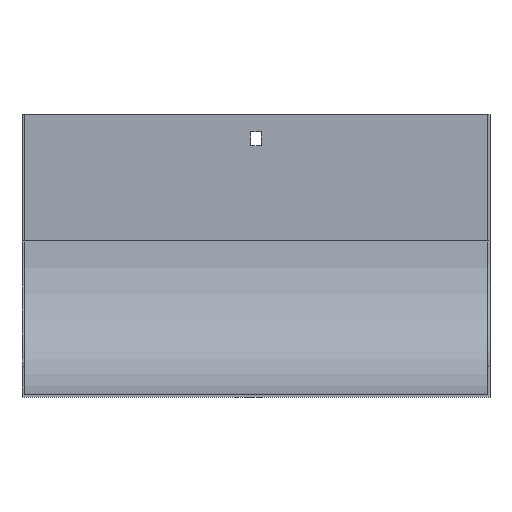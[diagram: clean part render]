
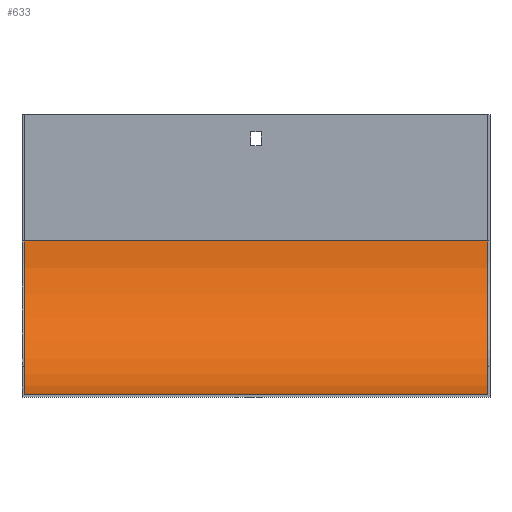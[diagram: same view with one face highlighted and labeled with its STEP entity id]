
A CAD part, front view. The second image highlights one B-rep face of the part: STEP entity #633.
In plain terms, the highlighted cylindrical face has radius 100 mm (diameter 200 mm), a partial arc.
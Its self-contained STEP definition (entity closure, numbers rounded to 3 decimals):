
#7 = CIRCLE ( 'NONE', #369, 100. ) ;
#17 = FACE_OUTER_BOUND ( 'NONE', #284, .T. ) ;
#42 = EDGE_CURVE ( 'NONE', #421, #314, #378, .T. ) ;
#43 = DIRECTION ( 'NONE',  ( 1., 0., 0. ) ) ;
#64 = DIRECTION ( 'NONE',  ( 1., 0., 0. ) ) ;
#129 = CARTESIAN_POINT ( 'NONE',  ( 150.5, -101.5, -82. ) ) ;
#153 = AXIS2_PLACEMENT_3D ( 'NONE', #297, #820, #696 ) ;
#207 = DIRECTION ( 'NONE',  ( 0., 0., 1. ) ) ;
#236 = CARTESIAN_POINT ( 'NONE',  ( -150.5, -1.5, -82. ) ) ;
#265 = ORIENTED_EDGE ( 'NONE', *, *, #42, .T. ) ;
#284 = EDGE_LOOP ( 'NONE', ( #463, #653, #265, #855 ) ) ;
#297 = CARTESIAN_POINT ( 'NONE',  ( 152., -101.5, -82. ) ) ;
#314 = VERTEX_POINT ( 'NONE', #452 ) ;
#319 = CARTESIAN_POINT ( 'NONE',  ( 152., -1.5, -82. ) ) ;
#322 = VERTEX_POINT ( 'NONE', #236 ) ;
#331 = CARTESIAN_POINT ( 'NONE',  ( 150.5, -101.5, -182. ) ) ;
#363 = DIRECTION ( 'NONE',  ( 0., 0., 1. ) ) ;
#369 = AXIS2_PLACEMENT_3D ( 'NONE', #673, #64, #363 ) ;
#378 = CIRCLE ( 'NONE', #538, 100. ) ;
#421 = VERTEX_POINT ( 'NONE', #331 ) ;
#439 = EDGE_CURVE ( 'NONE', #421, #729, #447, .T. ) ;
#443 = VECTOR ( 'NONE', #775, 1000. ) ;
#447 = LINE ( 'NONE', #719, #773 ) ;
#452 = CARTESIAN_POINT ( 'NONE',  ( 150.5, -1.5, -82. ) ) ;
#463 = ORIENTED_EDGE ( 'NONE', *, *, #621, .F. ) ;
#513 = LINE ( 'NONE', #319, #443 ) ;
#538 = AXIS2_PLACEMENT_3D ( 'NONE', #129, #43, #207 ) ;
#570 = CYLINDRICAL_SURFACE ( 'NONE', #153, 100. ) ;
#572 = CARTESIAN_POINT ( 'NONE',  ( -150.5, -101.5, -182. ) ) ;
#621 = EDGE_CURVE ( 'NONE', #729, #322, #7, .T. ) ;
#633 = ADVANCED_FACE ( 'NONE', ( #17 ), #570, .F. ) ;
#653 = ORIENTED_EDGE ( 'NONE', *, *, #439, .F. ) ;
#671 = EDGE_CURVE ( 'NONE', #314, #322, #513, .T. ) ;
#673 = CARTESIAN_POINT ( 'NONE',  ( -150.5, -101.5, -82. ) ) ;
#696 = DIRECTION ( 'NONE',  ( 0., 0., 1. ) ) ;
#704 = DIRECTION ( 'NONE',  ( -1., 0., 0. ) ) ;
#719 = CARTESIAN_POINT ( 'NONE',  ( 152., -101.5, -182. ) ) ;
#729 = VERTEX_POINT ( 'NONE', #572 ) ;
#773 = VECTOR ( 'NONE', #704, 1000. ) ;
#775 = DIRECTION ( 'NONE',  ( -1., 0., 0. ) ) ;
#820 = DIRECTION ( 'NONE',  ( -1., 0., 0. ) ) ;
#855 = ORIENTED_EDGE ( 'NONE', *, *, #671, .T. ) ;
